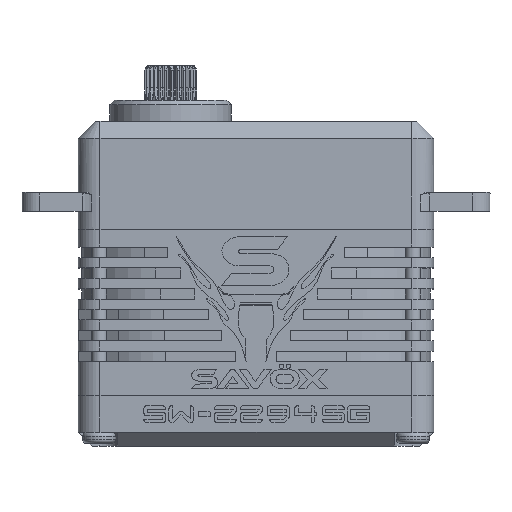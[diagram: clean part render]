
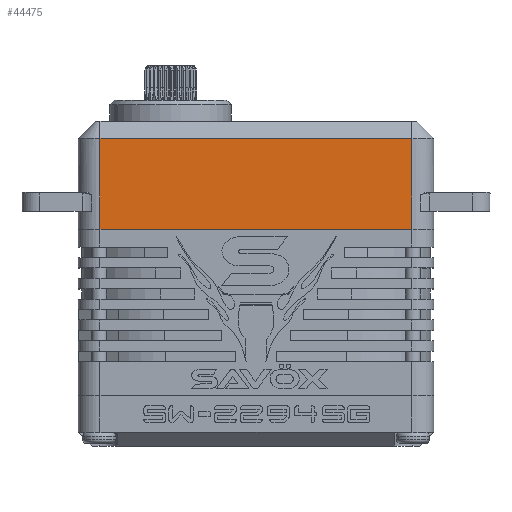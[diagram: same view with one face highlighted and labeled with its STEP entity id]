
A CAD part, top view. The second image highlights one B-rep face of the part: STEP entity #44475.
In plain terms, the highlighted planar face has unit normal (0, 0, 1).
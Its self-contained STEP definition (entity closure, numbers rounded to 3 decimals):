
#2375 = LINE ( 'NONE', #31744, #35375 ) ;
#2496 = VECTOR ( 'NONE', #6289, 1000. ) ;
#6182 = VERTEX_POINT ( 'NONE', #42515 ) ;
#6248 = EDGE_LOOP ( 'NONE', ( #39599, #41060, #41862, #29582 ) ) ;
#6289 = DIRECTION ( 'NONE',  ( 1., 0., 0. ) ) ;
#11334 = DIRECTION ( 'NONE',  ( 0., -1., 0. ) ) ;
#11504 = EDGE_CURVE ( 'NONE', #30655, #6182, #47978, .T. ) ;
#13792 = FACE_OUTER_BOUND ( 'NONE', #6248, .T. ) ;
#13895 = CARTESIAN_POINT ( 'NONE',  ( 27.85, 8.4, 10.5 ) ) ;
#15894 = EDGE_CURVE ( 'NONE', #6182, #33280, #35339, .T. ) ;
#16193 = AXIS2_PLACEMENT_3D ( 'NONE', #18929, #37915, #11334 ) ;
#17372 = DIRECTION ( 'NONE',  ( 0., 1., 0. ) ) ;
#18929 = CARTESIAN_POINT ( 'NONE',  ( 27.85, 10.4, 10.5 ) ) ;
#20157 = CARTESIAN_POINT ( 'NONE',  ( -8.15, 8.4, 10.5 ) ) ;
#21168 = LINE ( 'NONE', #47870, #22185 ) ;
#22185 = VECTOR ( 'NONE', #43837, 1000. ) ;
#23289 = DIRECTION ( 'NONE',  ( 0., -1., 0. ) ) ;
#27959 = EDGE_CURVE ( 'NONE', #28343, #30655, #2375, .T. ) ;
#28343 = VERTEX_POINT ( 'NONE', #48409 ) ;
#29582 = ORIENTED_EDGE ( 'NONE', *, *, #27959, .F. ) ;
#30443 = CARTESIAN_POINT ( 'NONE',  ( 27.85, 10.4, 10.5 ) ) ;
#30655 = VERTEX_POINT ( 'NONE', #20157 ) ;
#31744 = CARTESIAN_POINT ( 'NONE',  ( -8.15, 10.4, 10.5 ) ) ;
#33280 = VERTEX_POINT ( 'NONE', #40705 ) ;
#35339 = LINE ( 'NONE', #30443, #42410 ) ;
#35375 = VECTOR ( 'NONE', #17372, 1000. ) ;
#37915 = DIRECTION ( 'NONE',  ( 0., 0., -1. ) ) ;
#39599 = ORIENTED_EDGE ( 'NONE', *, *, #39857, .F. ) ;
#39857 = EDGE_CURVE ( 'NONE', #33280, #28343, #21168, .T. ) ;
#40705 = CARTESIAN_POINT ( 'NONE',  ( 27.85, -2.1, 10.5 ) ) ;
#41060 = ORIENTED_EDGE ( 'NONE', *, *, #15894, .F. ) ;
#41862 = ORIENTED_EDGE ( 'NONE', *, *, #11504, .F. ) ;
#42410 = VECTOR ( 'NONE', #23289, 1000. ) ;
#42515 = CARTESIAN_POINT ( 'NONE',  ( 27.85, 8.4, 10.5 ) ) ;
#43832 = PLANE ( 'NONE',  #16193 ) ;
#43837 = DIRECTION ( 'NONE',  ( -1., 0., 0. ) ) ;
#44475 = ADVANCED_FACE ( 'NONE', ( #13792 ), #43832, .F. ) ;
#47870 = CARTESIAN_POINT ( 'NONE',  ( 27.85, -2.1, 10.5 ) ) ;
#47978 = LINE ( 'NONE', #13895, #2496 ) ;
#48409 = CARTESIAN_POINT ( 'NONE',  ( -8.15, -2.1, 10.5 ) ) ;
